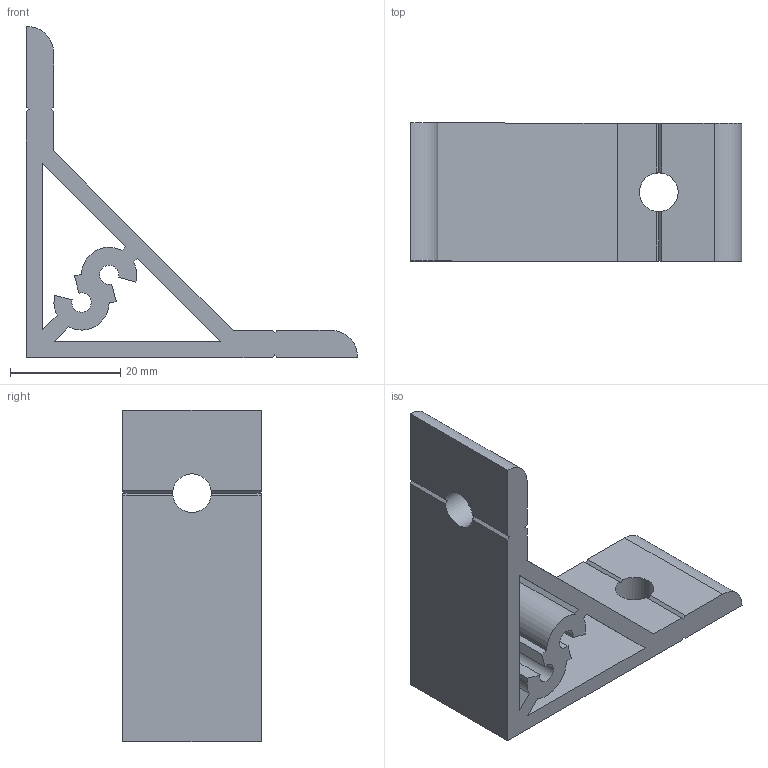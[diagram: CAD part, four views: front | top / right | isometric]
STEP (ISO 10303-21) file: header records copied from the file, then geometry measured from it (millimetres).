
FILE_DESCRIPTION(/* description */ ('Unknown'),/* implementation_level */ '2;1');
FILE_NAME(/* name */ 'AL2560',/* time_stamp */ '2026-09-17T13:04:54+08:00',/* author */ ('Unknown'),/* organization */ ('Unknown'),/* preprocessor_version */ 'ST-DEVELOPER v16.7',/* originating_system */ 'DEX',/* authorisation */ $);
FILE_SCHEMA (('AUTOMOTIVE_DESIGN {1 0 10303 214 3 1 1}'));
Length unit declared in the file: millimetre
Products named in the file (1): AL2560
Bounding box: 60 x 25 x 60 mm (x, y, z)
Volume: 16796.4 mm3; surface area: 11231 mm2
Topology: 1 solids, 1 shells, 51 faces, 155 edges, 102 vertices
Faces by surface type: plane 39, cylinder 12
Full cylindrical faces by diameter (mm): 7 x2
Entity records: 1777 total; most frequent: CARTESIAN_POINT 307, ORIENTED_EDGE 306, DIRECTION 301, EDGE_CURVE 153, LINE 109, VECTOR 109, VERTEX_POINT 102, AXIS2_PLACEMENT_3D 96
